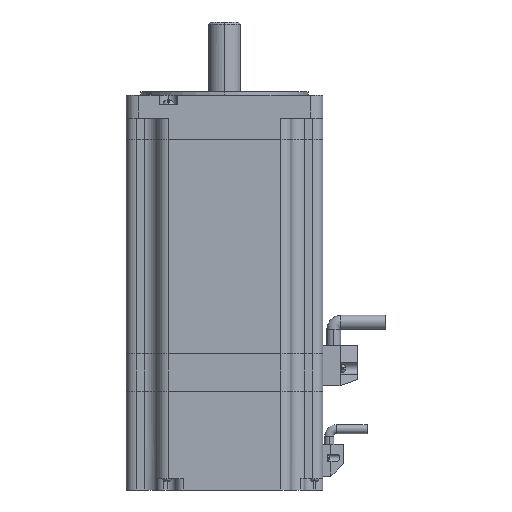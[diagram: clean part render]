
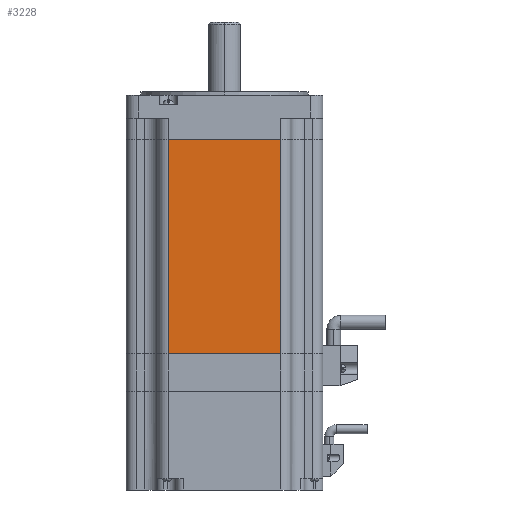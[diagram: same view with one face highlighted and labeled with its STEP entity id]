
A CAD part, left-side view. The second image highlights one B-rep face of the part: STEP entity #3228.
In plain terms, the highlighted planar face has unit normal (-1, 0, 0).
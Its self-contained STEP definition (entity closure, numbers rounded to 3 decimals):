
#1633 = VECTOR ( 'NONE', #16576, 1000. ) ;
#2104 = PLANE ( 'NONE',  #14048 ) ;
#2105 = CARTESIAN_POINT ( 'NONE',  ( -44.998, 37.384, 46.75 ) ) ;
#2106 = DIRECTION ( 'NONE',  ( 1., 0., 0. ) ) ;
#2107 = DIRECTION ( 'NONE',  ( 0., 1., 0. ) ) ;
#3228 = ADVANCED_FACE ( 'NONE', ( #14195 ), #2104, .F. ) ;
#4649 = ORIENTED_EDGE ( 'NONE', *, *, #18977, .F. ) ;
#5430 = ORIENTED_EDGE ( 'NONE', *, *, #18974, .T. ) ;
#5431 = ORIENTED_EDGE ( 'NONE', *, *, #18547, .F. ) ;
#5432 = ORIENTED_EDGE ( 'NONE', *, *, #7600, .T. ) ;
#7600 = EDGE_CURVE ( 'NONE', #17662, #17890, #16574, .T. ) ;
#8569 = LINE ( 'NONE', #8570, #12231 ) ;
#8570 = CARTESIAN_POINT ( 'NONE',  ( -44.998, 37.384, 46.75 ) ) ;
#8571 = DIRECTION ( 'NONE',  ( 0., -1., 0. ) ) ;
#8918 = LINE ( 'NONE', #8919, #12340 ) ;
#8919 = CARTESIAN_POINT ( 'NONE',  ( -44.998, 37.384, -46.75 ) ) ;
#8920 = DIRECTION ( 'NONE',  ( 0., -1., 0. ) ) ;
#8927 = LINE ( 'NONE', #8928, #12342 ) ;
#8928 = CARTESIAN_POINT ( 'NONE',  ( -44.998, -30.016, 46.75 ) ) ;
#8929 = DIRECTION ( 'NONE',  ( 0., 0., -1. ) ) ;
#11013 = CARTESIAN_POINT ( 'NONE',  ( -44.998, 18.984, 46.75 ) ) ;
#11031 = CARTESIAN_POINT ( 'NONE',  ( -44.998, -30.016, -46.75 ) ) ;
#11041 = CARTESIAN_POINT ( 'NONE',  ( -44.998, -30.016, 46.75 ) ) ;
#11207 = CARTESIAN_POINT ( 'NONE',  ( -44.998, 18.984, -46.75 ) ) ;
#12231 = VECTOR ( 'NONE', #8571, 1000. ) ;
#12340 = VECTOR ( 'NONE', #8920, 1000. ) ;
#12342 = VECTOR ( 'NONE', #8929, 1000. ) ;
#14048 = AXIS2_PLACEMENT_3D ( 'NONE', #2105, #2106, #2107 ) ;
#14195 = FACE_OUTER_BOUND ( 'NONE', #17335, .T. ) ;
#16574 = LINE ( 'NONE', #16575, #1633 ) ;
#16575 = CARTESIAN_POINT ( 'NONE',  ( -44.998, 18.984, 46.75 ) ) ;
#16576 = DIRECTION ( 'NONE',  ( 0., 0., -1. ) ) ;
#17335 = EDGE_LOOP ( 'NONE', ( #4649, #5431, #5432, #5430 ) ) ;
#17662 = VERTEX_POINT ( 'NONE', #11013 ) ;
#17680 = VERTEX_POINT ( 'NONE', #11031 ) ;
#17690 = VERTEX_POINT ( 'NONE', #11041 ) ;
#17890 = VERTEX_POINT ( 'NONE', #11207 ) ;
#18547 = EDGE_CURVE ( 'NONE', #17662, #17690, #8569, .T. ) ;
#18974 = EDGE_CURVE ( 'NONE', #17890, #17680, #8918, .T. ) ;
#18977 = EDGE_CURVE ( 'NONE', #17690, #17680, #8927, .T. ) ;
